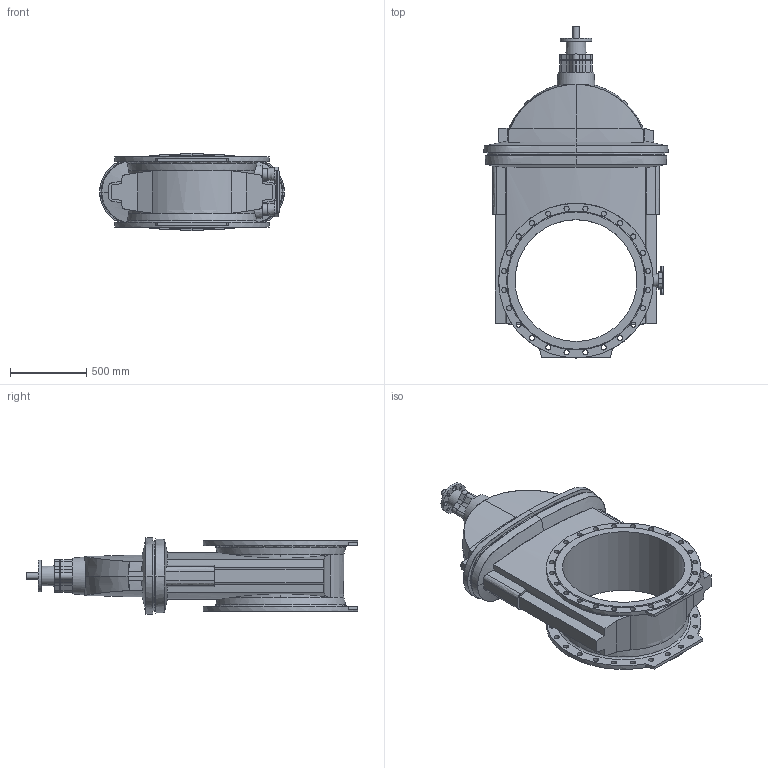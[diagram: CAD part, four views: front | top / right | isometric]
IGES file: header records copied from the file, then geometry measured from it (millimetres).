
Start section: SolidWorks IGES file using analytic representation for surfaces
Global section: file name: \\avksan2\techshare\PBM outline export from Enovia\O_06_30_DN800_00464_AA0.igs; native system: SolidWorks 2012; preprocessor: SolidWorks 2012; author: pbm; date: 180831.075748; units: millimetre
Bounding box: 1212 x 2179.5 x 506 mm (x, y, z)
Surface area: 7034844.5 mm2 (no closed solid volume)
Topology: 0 solids, 0 shells, 423 faces, 2448 edges, 2313 vertices
Faces by surface type: revolution 231, bspline 192
